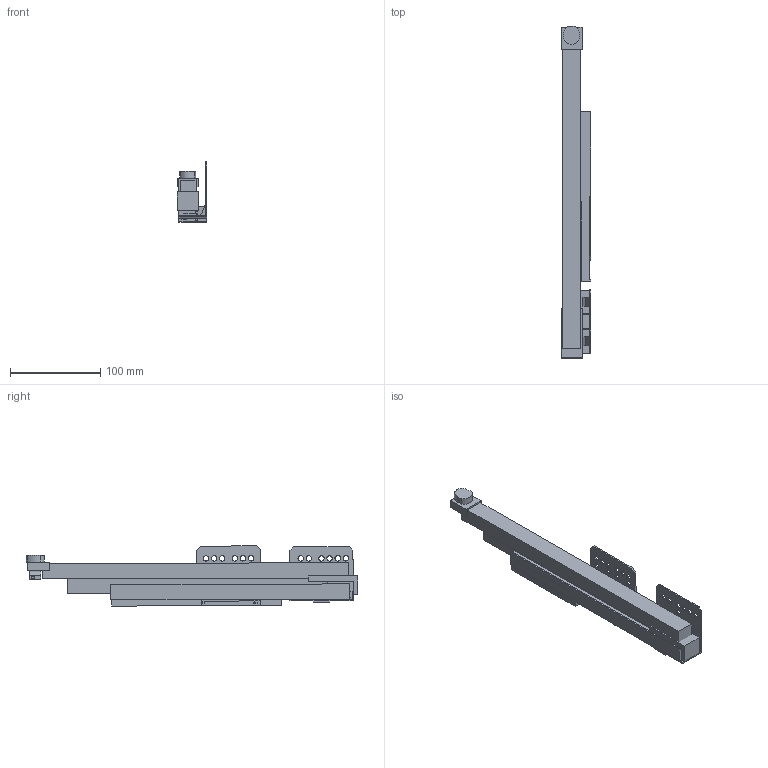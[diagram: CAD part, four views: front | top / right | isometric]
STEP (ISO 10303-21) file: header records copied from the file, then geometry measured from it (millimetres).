
FILE_DESCRIPTION (( 'STEP AP214' ), '1' );
FILE_NAME ('_IMOS Dynamic-XP VA 40kg NL350 RE Tipmatic.step', '2010-07-08T13:26:29', ( 'grass' ), ( '' ), 'SwSTEP 2.0', 'SolidWorks 2010', '' );
FILE_SCHEMA (( 'AUTOMOTIVE_DESIGN' ));
Length unit declared in the file: millimetre
Products named in the file (1): _IMOS Dynamic-XP VA 40kg NL350 RE Tipmatic
Bounding box: 33.14 x 368.02 x 66.67 mm (x, y, z)
Volume: 333942 mm3; surface area: 125854 mm2
Topology: 8 solids, 8 shells, 184 faces, 496 edges, 330 vertices
Faces by surface type: plane 137, cylinder 47
Entity records: 5917 total; most frequent: CARTESIAN_POINT 1011, ORIENTED_EDGE 992, DIRECTION 962, EDGE_CURVE 496, LINE 400, VECTOR 400, VERTEX_POINT 330, AXIS2_PLACEMENT_3D 281
